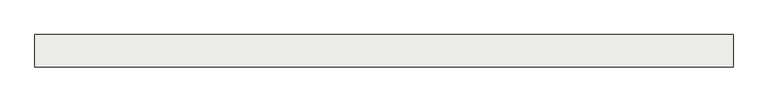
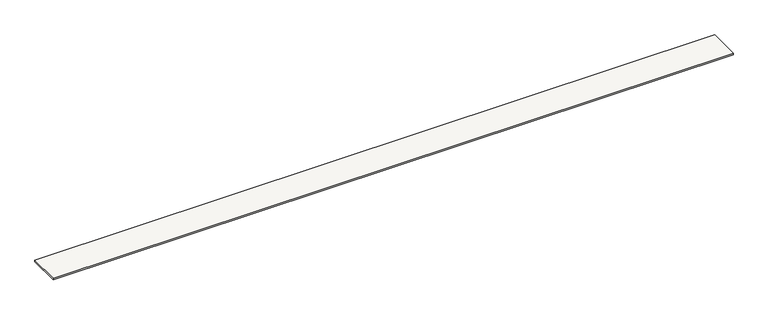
"""IFC4 building model written with IfcOpenShell, lengths in millimetres: slab geometry, Sol-02 - Tablette bois 2cm."""

from ifc_helpers import new_model, si_unit, origin, origin_with_axes, place, context, project, spatial, polyline, outline, extrude, source, transform, mapped, element, save


def slab_1df796bd(model_context):
    return source(origin(), model_context, "Body", "SweptSolid", [
        extrude(outline(polyline([(39703.9999799, 11349.9999995), (39703.9999799, 10999.9999995), (32171.9983601, 10999.9999995), (32171.9983601, 11349.9999995), (39703.9999799, 11349.9999995)])), origin_with_axes(), (0.0, 0.0, 1.0), 20.0),
    ])


if __name__ == "__main__":
    model = new_model("IFC4")
    model_context = context("Model", 3, world=origin())
    ifc_project = project(units=[si_unit("LENGTHUNIT", "METRE", prefix="MILLI")], contexts=[model_context])
    site = spatial("IfcSite", under=ifc_project)
    building = spatial("IfcBuilding", under=site)
    placement = place(None, origin())
    slab_shape = slab_1df796bd(model_context)
    element("IfcSlab", 1, ObjectType="Sol-02 - Tablette bois 2cm", at=placement, inside=building, context=model_context, shape_type="MappedRepresentation", body=[
        mapped(slab_shape, transform((0.0, 0.0, 0.0), x_axis=(1.0, 0.0, 0.0), y_axis=(0.0, 1.0, 0.0), z_axis=(0.0, 0.0, 1.0))),
    ])
    save(model, "model.ifc")
